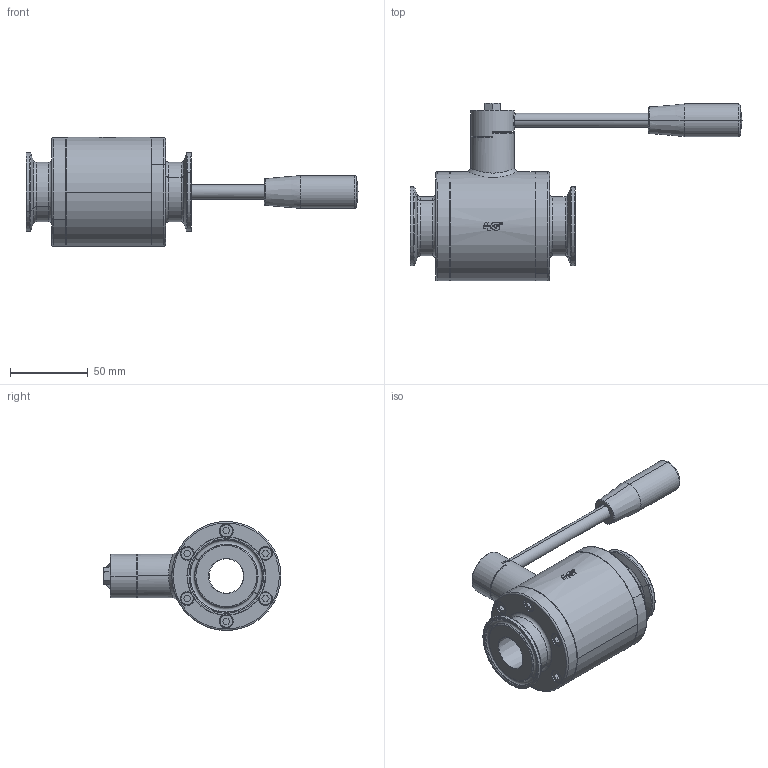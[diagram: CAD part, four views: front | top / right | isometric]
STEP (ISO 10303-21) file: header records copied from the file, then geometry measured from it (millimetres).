
FILE_DESCRIPTION((''),'2;1');
FILE_NAME('110130B62610_SW0001','2026-07-27T08:37:50',('tecnico2'),('CDM Tecnoconsulting'),'CREO PARAMETRIC BY PTC INC, 2024063','CREO PARAMETRIC BY PTC INC, 2024063','');
FILE_SCHEMA(('CONFIG_CONTROL_DESIGN','SHAPE_APPEARANCE_LAYERS_GROUPS'));
Products named in the file (1): 110130B62610_SW0001
Bounding box: 213 x 114 x 70 mm (x, y, z)
Volume: 319251.6 mm3; surface area: 67513.4 mm2
Topology: 1 solids, 1 shells, 990 faces, 2560 edges, 1627 vertices
Faces by surface type: plane 475, cylinder 176, cone 111, extrusion 111, torus 60, bspline 43, sphere 14
Entity records: 55282 total; most frequent: CARTESIAN_POINT 19472, ORIENTED_EDGE 5084, DIRECTION 4411, PRESENTATION_STYLE_ASSIGNMENT 3274, STYLED_ITEM 2654, CURVE_STYLE 2653, EDGE_CURVE 2542, VERTEX_POINT 1627
